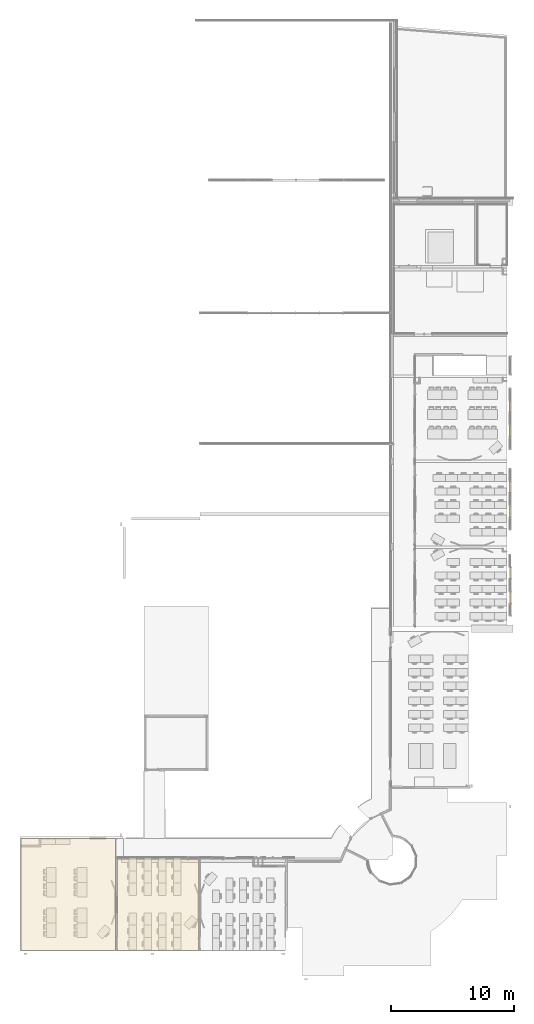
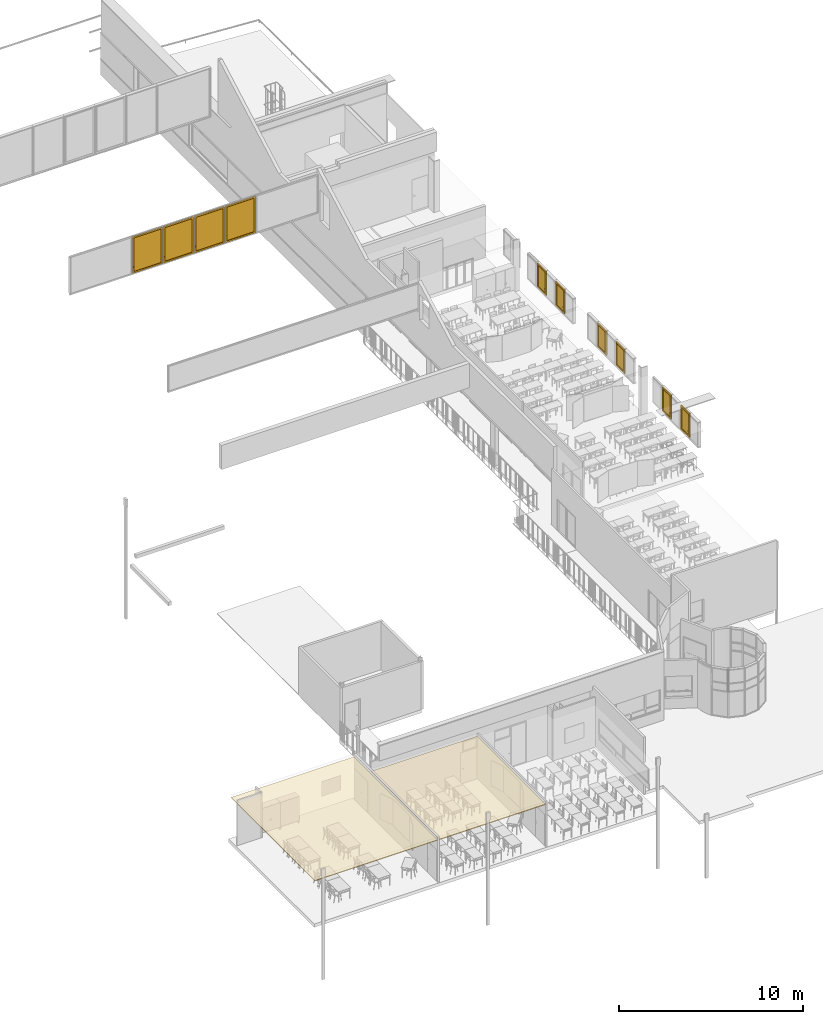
# One storey, part 40 of 44: 20 windows, 2 coverings, 9 elements without a shape of their own.
"""IFC2X3 building model written with IfcOpenShell, lengths in centimetres."""

from ifc_helpers import new_model, entity, si_unit, converted_unit, derived_unit, direction, frame, frame_2d, origin, place, context, subcontext, project, spatial, rectangle, extrude, faceted_brep, source, transform, mapped, material, material_list, layer, layer_set, layer_usage, type_object, type_shapes, element, aggregate, save


model = new_model("IFC2X3")

# Units and contexts
model_context = context("Model", 3, precision=0.001, world=origin(), true_north=direction((6.12303176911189e-17, 1.0)))
body_context = subcontext(model_context, "Body", "Model", "MODEL_VIEW")
ifc_project = project(units=[si_unit("LENGTHUNIT", "METRE", prefix="CENTI"), si_unit("AREAUNIT", "SQUARE_METRE"), si_unit("VOLUMEUNIT", "CUBIC_METRE"), converted_unit("PLANEANGLEUNIT", "DEGREE", entity("IfcRatioMeasure", 0.0174532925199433), si_unit("PLANEANGLEUNIT", "RADIAN"), dimensions=[0, 0, 0, 0, 0, 0, 0]), si_unit("MASSUNIT", "GRAM", prefix="KILO"), si_unit("TIMEUNIT", "SECOND"), si_unit("FREQUENCYUNIT", "HERTZ"), si_unit("THERMODYNAMICTEMPERATUREUNIT", "DEGREE_CELSIUS"), derived_unit("THERMALTRANSMITTANCEUNIT", [(si_unit("MASSUNIT", "GRAM", prefix="KILO"), 1), (si_unit("THERMODYNAMICTEMPERATUREUNIT", "KELVIN"), -1), (si_unit("TIMEUNIT", "SECOND"), -3)]), derived_unit("VOLUMETRICFLOWRATEUNIT", [(si_unit("LENGTHUNIT", "METRE"), 3), (si_unit("TIMEUNIT", "SECOND"), -1)]), si_unit("ELECTRICCURRENTUNIT", "AMPERE"), si_unit("ELECTRICVOLTAGEUNIT", "VOLT"), si_unit("POWERUNIT", "WATT"), si_unit("FORCEUNIT", "NEWTON", prefix="KILO"), si_unit("ILLUMINANCEUNIT", "LUX"), si_unit("LUMINOUSFLUXUNIT", "LUMEN"), si_unit("LUMINOUSINTENSITYUNIT", "CANDELA"), derived_unit("USERDEFINED", [(si_unit("MASSUNIT", "GRAM", prefix="KILO"), -1), (si_unit("LENGTHUNIT", "METRE"), -2), (si_unit("TIMEUNIT", "SECOND"), 3), (si_unit("LUMINOUSFLUXUNIT", "LUMEN"), 1)]), derived_unit("LINEARVELOCITYUNIT", [(si_unit("LENGTHUNIT", "METRE"), 1), (si_unit("TIMEUNIT", "SECOND"), -1)]), si_unit("PRESSUREUNIT", "PASCAL"), derived_unit("USERDEFINED", [(si_unit("LENGTHUNIT", "METRE"), -2), (si_unit("MASSUNIT", "GRAM", prefix="KILO"), 1), (si_unit("TIMEUNIT", "SECOND"), -2)])], contexts=[model_context])

# Site, building, storey
site_placement = place(None, frame((8.62739174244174, -249.285249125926, 0.0)))
site = spatial("IfcSite", under=ifc_project, at=site_placement, Name="Default", CompositionType="ELEMENT")
building_placement = place(site_placement, origin())
building = spatial("IfcBuilding", under=site, at=building_placement, CompositionType="ELEMENT")
storey_placement = place(building_placement, frame((0.0, 0.0, 343.0)))
storey = spatial("IfcBuildingStorey", under=building, at=storey_placement, Name="R+1", CompositionType="ELEMENT", Elevation=343.0)

# Curtain wall, windows
curtain_wall_type = type_object("IfcCurtainWallType", Name="Mur-rideau:Simple panneau", PredefinedType="NOTDEFINED")
curtain_wall_1_placement = place(storey_placement, frame((0.0, 0.0, -343.0)))
curtain_wall_1 = element("IfcCurtainWall", 1, at=curtain_wall_1_placement, inside=storey, type_object=curtain_wall_type, Name="Mur-rideau:Simple panneau", ObjectType="Mur-rideau:Simple panneau")
ifc_material_1 = material(Name="PVC - Blanc")
ifc_material_2 = material(Name="Fenêtre - Vitrage")
ifc_material_list_1 = material_list([ifc_material_1, ifc_material_2])
ifc_material_list_2 = material_list([ifc_material_1, ifc_material_2])
window_style_1 = type_object("IfcWindowStyle", Name="MR 1 OB", ConstructionType="NOTDEFINED", OperationType="NOTDEFINED", ParameterTakesPrecedence=False, Sizeable=False, material=ifc_material_list_2)
shared_shape_1 = source(origin(), body_context, "Body", "Brep", [
    faceted_brep([(-40.5646009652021, 4.92408568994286, 47.2033929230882), (-40.7033929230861, 4.92408568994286, 47.0646009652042), (-40.7033929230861, 4.92408568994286, 45.9332301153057), (-40.5667698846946, 4.92408568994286, 45.7966070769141), (-39.4332301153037, 4.92408568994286, 45.7966070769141), (-39.2966070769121, 4.92408568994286, 45.9332301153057), (-39.2966070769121, 4.92408568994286, 47.0646009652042), (-39.4353990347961, 4.92408568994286, 47.2033929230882), (-40.5646009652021, 6.21544057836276, 47.2033929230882), (-40.7033929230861, 6.15795106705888, 47.0646009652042), (-40.7033929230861, 7.48868665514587, 45.7338653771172), (-40.7033929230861, 7.48868665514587, 37.0), (-40.7033929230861, 6.3573158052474, 37.0), (-40.7033929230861, 6.35731580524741, 45.2652362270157), (-40.7033929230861, 5.68932191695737, 45.9332301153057), (-40.5667698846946, 5.63273080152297, 45.7966070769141), (-39.4332301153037, 5.63273080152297, 45.7966070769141), (-39.2966070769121, 5.68932191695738, 45.9332301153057), (-39.2966070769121, 6.35731580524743, 45.2652362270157), (-39.2966070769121, 6.35731580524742, 37.0), (-39.2966070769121, 7.48868665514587, 37.0), (-39.2966070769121, 7.48868665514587, 45.7338653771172), (-39.2966070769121, 6.15795106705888, 47.0646009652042), (-39.4353990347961, 6.21544057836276, 47.2033929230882), (-40.5646009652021, 7.6274786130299, 45.7913548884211), (-40.5667698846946, 6.22069276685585, 45.2086451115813), (-39.4332301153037, 6.22069276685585, 45.2086451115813), (-39.4353990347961, 7.6274786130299, 45.7913548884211), (-40.5646009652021, 7.6274786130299, 37.0), (-39.4353990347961, 7.6274786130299, 37.0), (-39.4332301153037, 6.22069276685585, 37.0), (-40.5667698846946, 6.22069276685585, 37.0)], [[[0, 1, 2, 3, 4, 5, 6, 7]], [[1, 0, 8, 9]], [[2, 1, 9, 10, 11, 12, 13, 14]], [[3, 2, 14, 15]], [[4, 3, 15, 16]], [[5, 4, 16, 17]], [[6, 5, 17, 18, 19, 20, 21, 22]], [[7, 6, 22, 23]], [[0, 7, 23, 8]], [[9, 8, 24, 10]], [[15, 14, 13, 25]], [[16, 15, 25, 26]], [[17, 16, 26, 18]], [[23, 22, 21, 27]], [[8, 23, 27, 24]], [[28, 29, 20, 19, 30, 31, 12, 11]], [[10, 24, 28, 11]], [[25, 13, 12, 31]], [[26, 25, 31, 30]], [[18, 26, 30, 19]], [[27, 21, 20, 29]], [[24, 27, 29, 28]]]),
    faceted_brep([(-40.7000000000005, 4.32408568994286, 49.0), (-41.1999999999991, 4.32408568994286, 48.500000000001), (-41.1999999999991, 4.32408568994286, 41.4999999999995), (-40.7000000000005, 4.32408568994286, 41.0), (-39.2999999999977, 4.32408568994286, 41.0), (-38.799999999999, 4.32408568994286, 41.4999999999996), (-38.799999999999, 4.32408568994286, 48.500000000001), (-39.299999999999, 4.32408568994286, 49.0), (-40.7000000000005, 4.92408568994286, 49.0), (-39.299999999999, 4.92408568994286, 49.0), (-38.799999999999, 4.92408568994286, 48.500000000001), (-38.799999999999, 4.92408568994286, 41.4999999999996), (-39.2999999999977, 4.92408568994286, 41.0), (-40.7000000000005, 4.92408568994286, 41.0), (-41.1999999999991, 4.92408568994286, 41.4999999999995), (-41.1999999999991, 4.92408568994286, 48.500000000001)], [[[0, 1, 2, 3, 4, 5, 6, 7]], [[8, 9, 10, 11, 12, 13, 14, 15]], [[1, 0, 8, 15]], [[2, 1, 15, 14]], [[3, 2, 14, 13]], [[4, 3, 13, 12]], [[5, 4, 12, 11]], [[6, 5, 11, 10]], [[7, 6, 10, 9]], [[0, 7, 9, 8]]]),
    faceted_brep([(37.4999999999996, 1.92408568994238, 150.0), (37.4999999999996, 1.92408568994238, 10.0), (-37.4999999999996, 1.92408568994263, 10.0), (-37.4999999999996, 1.92408568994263, 150.0), (37.4999999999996, 0.724085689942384, 150.0), (-37.4999999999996, 0.724085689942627, 150.0), (-37.4999999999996, 0.724085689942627, 10.0), (37.4999999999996, 0.724085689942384, 10.0)], [[[0, 1, 2, 3]], [[4, 5, 6, 7]], [[3, 5, 4, 0]], [[2, 6, 5, 3]], [[1, 7, 6, 2]], [[0, 4, 7, 1]]]),
    faceted_brep([(-42.4999999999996, -1.67591431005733, 155.0), (42.4999999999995, -1.67591431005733, 155.0), (42.4999999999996, 4.3240856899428, 155.0), (-42.4999999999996, 4.3240856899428, 155.0), (-37.4999999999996, 4.3240856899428, 150.0), (37.4999999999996, 4.3240856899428, 150.0), (37.4999999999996, -1.67591431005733, 150.0), (-37.4999999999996, -1.67591431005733, 150.0), (42.4999999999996, -1.67591431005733, 5.0), (42.4999999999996, 4.3240856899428, 5.0), (37.4999999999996, 4.3240856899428, 10.0), (37.4999999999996, -1.67591431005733, 10.0), (-42.4999999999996, -1.67591431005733, 5.0), (-42.4999999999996, 4.3240856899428, 5.0), (-37.4999999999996, 4.3240856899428, 10.0), (-37.4999999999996, -1.67591431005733, 10.0)], [[[0, 1, 2, 3]], [[4, 5, 6, 7]], [[1, 8, 9, 2]], [[5, 10, 11, 6]], [[8, 12, 13, 9]], [[10, 14, 15, 11]], [[3, 2, 9, 13], [5, 4, 14, 10]], [[12, 0, 3, 13]], [[1, 0, 12, 8], [7, 6, 11, 15]], [[14, 4, 7, 15]]]),
    faceted_brep([(-41.4999999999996, -1.6759143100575, 154.0), (41.4999999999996, -1.6759143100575, 154.0), (41.4999999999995, -2.67591431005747, 154.0), (-41.4999999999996, -2.67591431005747, 154.0), (-42.4999999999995, 4.32408568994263, 155.0), (42.4999999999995, 4.32408568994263, 155.0), (42.4999999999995, -1.6759143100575, 155.0), (-42.4999999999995, -1.6759143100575, 155.0), (-47.4999999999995, -2.67591431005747, 160.0), (47.4999999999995, -2.67591431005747, 160.0), (47.4999999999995, 4.32408568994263, 160.0), (-47.4999999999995, 4.32408568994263, 160.0), (41.4999999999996, -1.6759143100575, 6.0), (41.4999999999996, -2.67591431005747, 6.0), (42.4999999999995, 4.32408568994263, 5.0), (42.4999999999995, -1.6759143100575, 5.0), (47.4999999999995, -2.67591431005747, 0.0), (47.4999999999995, 4.32408568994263, 0.0), (-41.4999999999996, -1.6759143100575, 6.0), (-41.4999999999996, -2.67591431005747, 6.0), (-42.4999999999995, 4.32408568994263, 5.0), (-42.4999999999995, -1.6759143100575, 5.0), (-47.4999999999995, -2.67591431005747, 0.0), (-47.4999999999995, 4.32408568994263, 0.0)], [[[0, 1, 2, 3]], [[4, 5, 6, 7]], [[8, 9, 10, 11]], [[1, 12, 13, 2]], [[5, 14, 15, 6]], [[9, 16, 17, 10]], [[12, 18, 19, 13]], [[14, 20, 21, 15]], [[16, 22, 23, 17]], [[3, 2, 13, 19], [9, 8, 22, 16]], [[18, 0, 3, 19]], [[1, 0, 18, 12], [7, 6, 15, 21]], [[20, 4, 7, 21]], [[5, 4, 20, 14], [11, 10, 17, 23]], [[22, 8, 11, 23]]], outer=[[True], [True], [True], [True], [True], [True], [True], [True], [True], [False, True], [True], [False, True], [True], [False, True], [True]]),
])
type_shapes(window_style_1, [shared_shape_1])
window_1_placement = place(curtain_wall_1_placement, frame((4001.90482776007, 4446.58270074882, 456.0), z_axis=(0.0, 0.0, 1.0), x_axis=(0.0, 1.0, 0.0)))
window_1 = element("IfcWindow", 2, at=window_1_placement, type_object=window_style_1, material=ifc_material_list_1, Name="MR 1 OB:MR 1 OB", ObjectType="MR 1 OB", OverallHeight=160.0, OverallWidth=101.0, context=body_context, shape_type="MappedRepresentation", body=[
    mapped(shared_shape_1, transform((0.0, 0.0, 0.0), scale=1.0)),
])
ifc_material_list_3 = material_list([ifc_material_1, ifc_material_2])
window_2_placement = place(curtain_wall_1_placement, frame((4001.90482776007, 4246.58270074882, 456.0), z_axis=(0.0, 0.0, 1.0), x_axis=(0.0, 1.0, 0.0)))
window_2 = element("IfcWindow", 3, at=window_2_placement, type_object=window_style_1, material=ifc_material_list_3, Name="MR 1 OB:MR 1 OB", ObjectType="MR 1 OB", OverallHeight=160.0, OverallWidth=101.0, context=body_context, shape_type="MappedRepresentation", body=[
    mapped(shared_shape_1, transform((0.0, 0.0, 0.0), scale=1.0)),
])
aggregate(curtain_wall_1, [window_1, window_2])

curtain_wall_2_placement = place(storey_placement, frame((0.0, 0.0, -343.0)))
curtain_wall_2 = element("IfcCurtainWall", 4, at=curtain_wall_2_placement, inside=storey, type_object=curtain_wall_type, Name="Mur-rideau:Simple panneau", ObjectType="Mur-rideau:Simple panneau")
ifc_material_list_4 = material_list([ifc_material_1, ifc_material_2])
window_3_placement = place(curtain_wall_2_placement, frame((4003.90482781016, 3091.68519336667, 456.0), z_axis=(0.0, 0.0, 1.0), x_axis=(0.0, 1.0, 0.0)))
window_3 = element("IfcWindow", 5, at=window_3_placement, type_object=window_style_1, material=ifc_material_list_4, Name="MR 1 OB:MR 1 OB", ObjectType="MR 1 OB", OverallHeight=160.0, OverallWidth=101.0, context=body_context, shape_type="MappedRepresentation", body=[
    mapped(shared_shape_1, transform((0.0, 0.0, 0.0), scale=1.0)),
])
ifc_material_list_5 = material_list([ifc_material_1, ifc_material_2])
window_4_placement = place(curtain_wall_2_placement, frame((4003.90482781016, 2891.68519336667, 456.0), z_axis=(0.0, 0.0, 1.0), x_axis=(0.0, 1.0, 0.0)))
window_4 = element("IfcWindow", 6, at=window_4_placement, type_object=window_style_1, material=ifc_material_list_5, Name="MR 1 OB:MR 1 OB", ObjectType="MR 1 OB", OverallHeight=160.0, OverallWidth=101.0, context=body_context, shape_type="MappedRepresentation", body=[
    mapped(shared_shape_1, transform((0.0, 0.0, 0.0), scale=1.0)),
])
aggregate(curtain_wall_2, [window_3, window_4])

curtain_wall_3_placement = place(storey_placement, frame((0.0, 0.0, -343.0)))
curtain_wall_3 = element("IfcCurtainWall", 7, at=curtain_wall_3_placement, inside=storey, type_object=curtain_wall_type, Name="Mur-rideau:Simple panneau", ObjectType="Mur-rideau:Simple panneau")
ifc_material_list_6 = material_list([ifc_material_1, ifc_material_2])
window_5_placement = place(curtain_wall_3_placement, frame((4001.90482776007, 4446.58270074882, 456.0), z_axis=(0.0, 0.0, 1.0), x_axis=(0.0, 1.0, 0.0)))
window_5 = element("IfcWindow", 8, at=window_5_placement, type_object=window_style_1, material=ifc_material_list_6, Name="MR 1 OB:MR 1 OB", ObjectType="MR 1 OB", OverallHeight=160.0, OverallWidth=101.0, context=body_context, shape_type="MappedRepresentation", body=[
    mapped(shared_shape_1, transform((0.0, 0.0, 0.0), scale=1.0)),
])
ifc_material_list_7 = material_list([ifc_material_1, ifc_material_2])
window_6_placement = place(curtain_wall_3_placement, frame((4001.90482776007, 4246.58270074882, 456.0), z_axis=(0.0, 0.0, 1.0), x_axis=(0.0, 1.0, 0.0)))
window_6 = element("IfcWindow", 9, at=window_6_placement, type_object=window_style_1, material=ifc_material_list_7, Name="MR 1 OB:MR 1 OB", ObjectType="MR 1 OB", OverallHeight=160.0, OverallWidth=101.0, context=body_context, shape_type="MappedRepresentation", body=[
    mapped(shared_shape_1, transform((0.0, 0.0, 0.0), scale=1.0)),
])
aggregate(curtain_wall_3, [window_5, window_6])

curtain_wall_4_placement = place(storey_placement, frame((0.0, 0.0, -343.0)))
curtain_wall_4 = element("IfcCurtainWall", 10, at=curtain_wall_4_placement, inside=storey, type_object=curtain_wall_type, Name="Mur-rideau:Simple panneau", ObjectType="Mur-rideau:Simple panneau")
ifc_material_list_8 = material_list([ifc_material_1, ifc_material_2])
window_7_placement = place(curtain_wall_4_placement, frame((4001.90482776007, 3791.68519336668, 456.0), z_axis=(0.0, 0.0, 1.0), x_axis=(0.0, 1.0, 0.0)))
window_7 = element("IfcWindow", 11, at=window_7_placement, type_object=window_style_1, material=ifc_material_list_8, Name="MR 1 OB:MR 1 OB", ObjectType="MR 1 OB", OverallHeight=160.0, OverallWidth=101.0, context=body_context, shape_type="MappedRepresentation", body=[
    mapped(shared_shape_1, transform((0.0, 0.0, 0.0), scale=1.0)),
])
ifc_material_list_9 = material_list([ifc_material_1, ifc_material_2])
window_8_placement = place(curtain_wall_4_placement, frame((4001.90482776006, 3591.68519336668, 456.0), z_axis=(0.0, 0.0, 1.0), x_axis=(0.0, 1.0, 0.0)))
window_8 = element("IfcWindow", 12, at=window_8_placement, type_object=window_style_1, material=ifc_material_list_9, Name="MR 1 OB:MR 1 OB", ObjectType="MR 1 OB", OverallHeight=160.0, OverallWidth=101.0, context=body_context, shape_type="MappedRepresentation", body=[
    mapped(shared_shape_1, transform((0.0, 0.0, 0.0), scale=1.0)),
])
aggregate(curtain_wall_4, [window_7, window_8])

curtain_wall_5_placement = place(storey_placement, frame((0.0, 0.0, -343.0)))
curtain_wall_5 = element("IfcCurtainWall", 13, at=curtain_wall_5_placement, inside=storey, type_object=curtain_wall_type, Name="Mur-rideau:Simple panneau", ObjectType="Mur-rideau:Simple panneau")
ifc_material_list_10 = material_list([ifc_material_1, ifc_material_2])
window_9_placement = place(curtain_wall_5_placement, frame((4003.90482781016, 3091.68519336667, 456.0), z_axis=(0.0, 0.0, 1.0), x_axis=(0.0, 1.0, 0.0)))
window_9 = element("IfcWindow", 14, at=window_9_placement, type_object=window_style_1, material=ifc_material_list_10, Name="MR 1 OB:MR 1 OB", ObjectType="MR 1 OB", OverallHeight=160.0, OverallWidth=101.0, context=body_context, shape_type="MappedRepresentation", body=[
    mapped(shared_shape_1, transform((0.0, 0.0, 0.0), scale=1.0)),
])
ifc_material_list_11 = material_list([ifc_material_1, ifc_material_2])
window_10_placement = place(curtain_wall_5_placement, frame((4003.90482781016, 2891.68519336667, 456.0), z_axis=(0.0, 0.0, 1.0), x_axis=(0.0, 1.0, 0.0)))
window_10 = element("IfcWindow", 15, at=window_10_placement, type_object=window_style_1, material=ifc_material_list_11, Name="MR 1 OB:MR 1 OB", ObjectType="MR 1 OB", OverallHeight=160.0, OverallWidth=101.0, context=body_context, shape_type="MappedRepresentation", body=[
    mapped(shared_shape_1, transform((0.0, 0.0, 0.0), scale=1.0)),
])
aggregate(curtain_wall_5, [window_9, window_10])

curtain_wall_6_placement = place(storey_placement, frame((0.0, 0.0, -343.0)))
curtain_wall_6 = element("IfcCurtainWall", 16, at=curtain_wall_6_placement, inside=storey, type_object=curtain_wall_type, Name="Mur-rideau:Simple panneau", ObjectType="Mur-rideau:Simple panneau")
ifc_material_list_12 = material_list([ifc_material_1, ifc_material_2])
window_11_placement = place(curtain_wall_6_placement, frame((4001.90482776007, 4446.58270074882, 456.0), z_axis=(0.0, 0.0, 1.0), x_axis=(0.0, 1.0, 0.0)))
window_11 = element("IfcWindow", 17, at=window_11_placement, type_object=window_style_1, material=ifc_material_list_12, Name="MR 1 OB:MR 1 OB", ObjectType="MR 1 OB", OverallHeight=160.0, OverallWidth=101.0, context=body_context, shape_type="MappedRepresentation", body=[
    mapped(shared_shape_1, transform((0.0, 0.0, 0.0), scale=1.0)),
])
ifc_material_list_13 = material_list([ifc_material_1, ifc_material_2])
window_12_placement = place(curtain_wall_6_placement, frame((4001.90482776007, 4246.58270074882, 456.0), z_axis=(0.0, 0.0, 1.0), x_axis=(0.0, 1.0, 0.0)))
window_12 = element("IfcWindow", 18, at=window_12_placement, type_object=window_style_1, material=ifc_material_list_13, Name="MR 1 OB:MR 1 OB", ObjectType="MR 1 OB", OverallHeight=160.0, OverallWidth=101.0, context=body_context, shape_type="MappedRepresentation", body=[
    mapped(shared_shape_1, transform((0.0, 0.0, 0.0), scale=1.0)),
])
aggregate(curtain_wall_6, [window_11, window_12])

curtain_wall_7_placement = place(storey_placement, frame((0.0, 0.0, -343.0)))
curtain_wall_7 = element("IfcCurtainWall", 19, at=curtain_wall_7_placement, inside=storey, type_object=curtain_wall_type, Name="Mur-rideau:Simple panneau", ObjectType="Mur-rideau:Simple panneau")
ifc_material_list_14 = material_list([ifc_material_1, ifc_material_2])
window_13_placement = place(curtain_wall_7_placement, frame((4001.90482776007, 3791.68519336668, 456.0), z_axis=(0.0, 0.0, 1.0), x_axis=(0.0, 1.0, 0.0)))
window_13 = element("IfcWindow", 20, at=window_13_placement, type_object=window_style_1, material=ifc_material_list_14, Name="MR 1 OB:MR 1 OB", ObjectType="MR 1 OB", OverallHeight=160.0, OverallWidth=101.0, context=body_context, shape_type="MappedRepresentation", body=[
    mapped(shared_shape_1, transform((0.0, 0.0, 0.0), scale=1.0)),
])
ifc_material_list_15 = material_list([ifc_material_1, ifc_material_2])
window_14_placement = place(curtain_wall_7_placement, frame((4001.90482776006, 3591.68519336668, 456.0), z_axis=(0.0, 0.0, 1.0), x_axis=(0.0, 1.0, 0.0)))
window_14 = element("IfcWindow", 21, at=window_14_placement, type_object=window_style_1, material=ifc_material_list_15, Name="MR 1 OB:MR 1 OB", ObjectType="MR 1 OB", OverallHeight=160.0, OverallWidth=101.0, context=body_context, shape_type="MappedRepresentation", body=[
    mapped(shared_shape_1, transform((0.0, 0.0, 0.0), scale=1.0)),
])
aggregate(curtain_wall_7, [window_13, window_14])

curtain_wall_8_placement = place(storey_placement, frame((0.0, 0.0, -343.0)))
curtain_wall_8 = element("IfcCurtainWall", 22, at=curtain_wall_8_placement, inside=storey, type_object=curtain_wall_type, Name="Mur-rideau:Simple panneau", ObjectType="Mur-rideau:Simple panneau")
ifc_material_list_16 = material_list([ifc_material_1, ifc_material_2])
window_15_placement = place(curtain_wall_8_placement, frame((4003.90482781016, 3091.68519336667, 456.0), z_axis=(0.0, 0.0, 1.0), x_axis=(0.0, 1.0, 0.0)))
window_15 = element("IfcWindow", 23, at=window_15_placement, type_object=window_style_1, material=ifc_material_list_16, Name="MR 1 OB:MR 1 OB", ObjectType="MR 1 OB", OverallHeight=160.0, OverallWidth=101.0, context=body_context, shape_type="MappedRepresentation", body=[
    mapped(shared_shape_1, transform((0.0, 0.0, 0.0), scale=1.0)),
])
ifc_material_list_17 = material_list([ifc_material_1, ifc_material_2])
window_16_placement = place(curtain_wall_8_placement, frame((4003.90482781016, 2891.68519336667, 456.0), z_axis=(0.0, 0.0, 1.0), x_axis=(0.0, 1.0, 0.0)))
window_16 = element("IfcWindow", 24, at=window_16_placement, type_object=window_style_1, material=ifc_material_list_17, Name="MR 1 OB:MR 1 OB", ObjectType="MR 1 OB", OverallHeight=160.0, OverallWidth=101.0, context=body_context, shape_type="MappedRepresentation", body=[
    mapped(shared_shape_1, transform((0.0, 0.0, 0.0), scale=1.0)),
])
aggregate(curtain_wall_8, [window_15, window_16])

curtain_wall_9_placement = place(storey_placement, frame((0.0, 0.0, -343.0)))
curtain_wall_9 = element("IfcCurtainWall", 25, at=curtain_wall_9_placement, inside=storey, type_object=curtain_wall_type, Name="Mur-rideau:Simple panneau", ObjectType="Mur-rideau:Simple panneau")
ifc_material_list_18 = material_list([ifc_material_1, ifc_material_2])
ifc_material_list_19 = material_list([ifc_material_1, ifc_material_2])
window_style_2 = type_object("IfcWindowStyle", Name="MR 1 OB", ConstructionType="NOTDEFINED", OperationType="NOTDEFINED", ParameterTakesPrecedence=False, Sizeable=False, material=ifc_material_list_19)
shared_shape_2 = source(origin(), body_context, "Body", "Brep", [
    faceted_brep([(-87.877100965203, -4.92408568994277, 47.2033929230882), (-86.747899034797, -4.92408568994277, 47.2033929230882), (-86.609107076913, -4.92408568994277, 47.0646009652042), (-86.609107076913, -4.92408568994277, 45.9332301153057), (-86.7457301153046, -4.92408568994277, 45.7966070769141), (-87.8792698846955, -4.92408568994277, 45.7966070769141), (-88.0158929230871, -4.92408568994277, 45.9332301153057), (-88.0158929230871, -4.92408568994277, 47.0646009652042), (-88.0158929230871, -6.1579510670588, 47.0646009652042), (-87.877100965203, -6.21544057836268, 47.2033929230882), (-88.0158929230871, -5.68932191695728, 45.9332301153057), (-88.0158929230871, -6.35731580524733, 45.2652362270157), (-88.0158929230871, -6.35731580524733, 37.0), (-88.0158929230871, -7.48868665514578, 37.0), (-88.0158929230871, -7.48868665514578, 45.7338653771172), (-87.8792698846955, -5.63273080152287, 45.7966070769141), (-86.7457301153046, -5.63273080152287, 45.7966070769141), (-86.609107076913, -5.68932191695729, 45.9332301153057), (-86.609107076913, -6.1579510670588, 47.0646009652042), (-86.609107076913, -7.48868665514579, 45.7338653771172), (-86.609107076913, -7.48868665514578, 37.0), (-86.609107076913, -6.35731580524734, 37.0), (-86.609107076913, -6.35731580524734, 45.2652362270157), (-86.747899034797, -6.21544057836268, 47.2033929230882), (-87.8771009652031, -7.62747861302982, 45.7913548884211), (-87.8792698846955, -6.22069276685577, 45.2086451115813), (-86.7457301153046, -6.22069276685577, 45.2086451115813), (-86.747899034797, -7.62747861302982, 45.7913548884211), (-87.877100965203, -7.62747861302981, 37.0), (-87.8792698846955, -6.22069276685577, 37.0), (-86.7457301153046, -6.22069276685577, 37.0), (-86.747899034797, -7.62747861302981, 37.0)], [[[0, 1, 2, 3, 4, 5, 6, 7]], [[7, 8, 9, 0]], [[6, 10, 11, 12, 13, 14, 8, 7]], [[5, 15, 10, 6]], [[4, 16, 15, 5]], [[3, 17, 16, 4]], [[2, 18, 19, 20, 21, 22, 17, 3]], [[1, 23, 18, 2]], [[0, 9, 23, 1]], [[8, 14, 24, 9]], [[15, 25, 11, 10]], [[16, 26, 25, 15]], [[17, 22, 26, 16]], [[23, 27, 19, 18]], [[9, 24, 27, 23]], [[28, 13, 12, 29, 30, 21, 20, 31]], [[14, 13, 28, 24]], [[25, 29, 12, 11]], [[26, 30, 29, 25]], [[22, 21, 30, 26]], [[27, 31, 20, 19]], [[24, 28, 31, 27]]]),
    faceted_brep([(-88.0125000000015, -4.32408568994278, 49.0), (-86.6124999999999, -4.32408568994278, 49.0), (-86.1124999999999, -4.32408568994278, 48.500000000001), (-86.1124999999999, -4.32408568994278, 41.4999999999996), (-86.6124999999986, -4.32408568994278, 41.0), (-88.0125000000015, -4.32408568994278, 41.0), (-88.5125, -4.32408568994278, 41.4999999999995), (-88.5125, -4.32408568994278, 48.500000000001), (-88.0125000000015, -4.92408568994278, 49.0), (-88.5125, -4.92408568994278, 48.500000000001), (-88.5125, -4.92408568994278, 41.4999999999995), (-88.0125000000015, -4.92408568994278, 41.0), (-86.6124999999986, -4.92408568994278, 41.0), (-86.1124999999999, -4.92408568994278, 41.4999999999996), (-86.1124999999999, -4.92408568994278, 48.500000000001), (-86.6124999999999, -4.92408568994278, 49.0)], [[[0, 1, 2, 3, 4, 5, 6, 7]], [[8, 9, 10, 11, 12, 13, 14, 15]], [[7, 9, 8, 0]], [[6, 10, 9, 7]], [[5, 11, 10, 6]], [[4, 12, 11, 5]], [[3, 13, 12, 4]], [[2, 14, 13, 3]], [[1, 15, 14, 2]], [[0, 8, 15, 1]]]),
    faceted_brep([(84.8125000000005, -1.92408568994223, 233.0), (-84.8125000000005, -1.92408568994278, 233.0), (-84.8125000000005, -1.92408568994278, 10.0), (84.8125000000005, -1.92408568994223, 10.0), (84.8125000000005, -0.724085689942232, 233.0), (84.8125000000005, -0.724085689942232, 10.0), (-84.8125000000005, -0.724085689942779, 10.0), (-84.8125000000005, -0.724085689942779, 233.0)], [[[0, 1, 2, 3]], [[4, 5, 6, 7]], [[1, 0, 4, 7]], [[2, 1, 7, 6]], [[3, 2, 6, 5]], [[0, 3, 5, 4]]]),
    faceted_brep([(-89.8125000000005, 1.67591431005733, 238.0), (-89.8125000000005, -4.3240856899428, 238.0), (89.8125000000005, -4.3240856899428, 238.0), (89.8125000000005, 1.67591431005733, 238.0), (-84.8125000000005, -4.3240856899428, 233.0), (-84.8125000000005, 1.67591431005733, 233.0), (84.8125000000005, 1.67591431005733, 233.0), (84.8125000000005, -4.3240856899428, 233.0), (89.8125000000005, -4.3240856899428, 5.0), (89.8125000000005, 1.67591431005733, 5.0), (84.8125000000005, 1.67591431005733, 10.0), (84.8125000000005, -4.3240856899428, 10.0), (-89.8125000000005, -4.3240856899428, 5.0), (-89.8125000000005, 1.67591431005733, 5.0), (-84.8125000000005, 1.67591431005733, 10.0), (-84.8125000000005, -4.3240856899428, 10.0)], [[[0, 1, 2, 3]], [[4, 5, 6, 7]], [[3, 2, 8, 9]], [[7, 6, 10, 11]], [[9, 8, 12, 13]], [[11, 10, 14, 15]], [[7, 11, 15, 4], [1, 12, 8, 2]], [[13, 12, 1, 0]], [[3, 9, 13, 0], [5, 14, 10, 6]], [[15, 14, 5, 4]]], outer=[[True], [True], [True], [True], [True], [True], [False, True], [True], [True, False], [True]]),
    faceted_brep([(-88.8125000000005, 1.6759143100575, 237.0), (-88.8125000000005, 2.67591431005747, 237.0), (88.8125000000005, 2.67591431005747, 237.0), (88.8125000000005, 1.6759143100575, 237.0), (-89.8125000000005, -4.32408568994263, 238.0), (-89.8125000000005, 1.6759143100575, 238.0), (89.8125000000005, 1.6759143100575, 238.0), (89.8125000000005, -4.32408568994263, 238.0), (-94.8125000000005, 2.67591431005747, 243.0), (-94.8125000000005, -4.32408568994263, 243.0), (94.8125000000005, -4.32408568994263, 243.0), (94.8125000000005, 2.67591431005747, 243.0), (88.8125000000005, 2.67591431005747, 6.0), (88.8125000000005, 1.6759143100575, 6.0), (89.8125000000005, 1.6759143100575, 5.0), (89.8125000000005, -4.32408568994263, 5.0), (94.8125000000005, -4.32408568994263, 0.0), (94.8125000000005, 2.67591431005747, 0.0), (-88.8125000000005, 2.67591431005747, 6.0), (-88.8125000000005, 1.6759143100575, 6.0), (-89.8125000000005, 1.6759143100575, 5.0), (-89.8125000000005, -4.32408568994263, 5.0), (-94.8125000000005, -4.32408568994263, 0.0), (-94.8125000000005, 2.67591431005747, 0.0)], [[[0, 1, 2, 3]], [[4, 5, 6, 7]], [[8, 9, 10, 11]], [[3, 2, 12, 13]], [[7, 6, 14, 15]], [[11, 10, 16, 17]], [[13, 12, 18, 19]], [[15, 14, 20, 21]], [[17, 16, 22, 23]], [[11, 17, 23, 8], [1, 18, 12, 2]], [[19, 18, 1, 0]], [[3, 13, 19, 0], [5, 20, 14, 6]], [[21, 20, 5, 4]], [[7, 15, 21, 4], [9, 22, 16, 10]], [[23, 22, 9, 8]]], outer=[[True], [True], [True], [True], [True], [True], [True], [True], [True], [True, False], [True], [False, True], [True], [False, True], [True]]),
])
type_shapes(window_style_2, [shared_shape_2])
window_17_placement = place(curtain_wall_9_placement, frame((1963.46732779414, 5206.78358687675, 860.0)))
window_17 = element("IfcWindow", 26, at=window_17_placement, type_object=window_style_2, material=ifc_material_list_18, Name="MR 1 OB:MR 1 OB", ObjectType="MR 1 OB", OverallHeight=243.0, OverallWidth=189.625000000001, context=body_context, shape_type="MappedRepresentation", body=[
    mapped(shared_shape_2, transform((0.0, 0.0, 0.0), scale=1.0)),
])
ifc_material_list_20 = material_list([ifc_material_1, ifc_material_2])
window_18_placement = place(curtain_wall_9_placement, frame((2158.09232779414, 5206.78358687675, 860.0)))
window_18 = element("IfcWindow", 27, at=window_18_placement, type_object=window_style_2, material=ifc_material_list_20, Name="MR 1 OB:MR 1 OB", ObjectType="MR 1 OB", OverallHeight=243.0, OverallWidth=189.625000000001, context=body_context, shape_type="MappedRepresentation", body=[
    mapped(shared_shape_2, transform((0.0, 0.0, 0.0), scale=1.0)),
])
ifc_material_list_21 = material_list([ifc_material_1, ifc_material_2])
window_19_placement = place(curtain_wall_9_placement, frame((2352.71732779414, 5206.78358687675, 860.0)))
window_19 = element("IfcWindow", 28, at=window_19_placement, type_object=window_style_2, material=ifc_material_list_21, Name="MR 1 OB:MR 1 OB", ObjectType="MR 1 OB", OverallHeight=243.0, OverallWidth=189.625000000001, context=body_context, shape_type="MappedRepresentation", body=[
    mapped(shared_shape_2, transform((0.0, 0.0, 0.0), scale=1.0)),
])
ifc_material_list_22 = material_list([ifc_material_1, ifc_material_2])
window_20_placement = place(curtain_wall_9_placement, frame((2547.34232779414, 5206.78358687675, 860.0)))
window_20 = element("IfcWindow", 29, at=window_20_placement, type_object=window_style_2, material=ifc_material_list_22, Name="MR 1 OB:MR 1 OB", ObjectType="MR 1 OB", OverallHeight=243.0, OverallWidth=189.625000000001, context=body_context, shape_type="MappedRepresentation", body=[
    mapped(shared_shape_2, transform((0.0, 0.0, 0.0), scale=1.0)),
])
aggregate(curtain_wall_9, [window_17, window_18, window_19, window_20])

# Space
space_1_placement = place(storey_placement, origin())
space_1 = spatial("IfcSpace", under=storey, at=space_1_placement, Name="120", CompositionType="ELEMENT", InteriorOrExteriorSpace="INTERNAL")

# Covering
ifc_material_3 = material(Name="Maçonnerie - Isolant_MU")
ifc_layer = layer(ifc_material_3, 5.0)
ifc_layer_set = layer_set([ifc_layer], Name="Plafond composé:Plafond avec isolation")
ifc_layer_usage_1 = layer_usage(ifc_layer_set, "AXIS3", "NEGATIVE", 0.0)
covering_1_placement = place(space_1_placement, origin())
element("IfcCovering", 30, at=covering_1_placement, inside=space_1, material=ifc_layer_usage_1, Name="Plafond composé:Plafond avec isolation", ObjectType="Plafond composé:Plafond avec isolation", PredefinedType="CEILING", context=body_context, shape_type="SweptSolid", body=[
    extrude(rectangle(XDim=743.0, YDim=665.0, at=frame_2d((0.0, -5.6843418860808e-14), x_axis=(1.0, 0.0))), frame((1136.40547197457, 393.499999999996, 277.0), z_axis=(0.0, 0.0, 1.0), x_axis=(0.0, 1.0, 0.0)), (0.0, 0.0, 1.0), 4.99999999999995),
])

# Space
space_2_placement = place(storey_placement, origin())
space_2 = spatial("IfcSpace", under=storey, at=space_2_placement, Name="117", CompositionType="ELEMENT", InteriorOrExteriorSpace="INTERNAL")

# Covering
ifc_layer_usage_2 = layer_usage(ifc_layer_set, "AXIS3", "NEGATIVE", 0.0)
covering_2_placement = place(space_2_placement, origin())
element("IfcCovering", 31, at=covering_2_placement, inside=space_2, material=ifc_layer_usage_2, Name="Plafond composé:Plafond avec isolation", ObjectType="Plafond composé:Plafond avec isolation", PredefinedType="CEILING", context=body_context, shape_type="SweptSolid", body=[
    extrude(rectangle(XDim=909.0, YDim=769.905471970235, at=frame_2d((0.0, 5.6843418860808e-14), x_axis=(1.0, 0.0))), frame((406.952735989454, 476.499999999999, 277.0), z_axis=(0.0, 0.0, 1.0), x_axis=(0.0, 1.0, 0.0)), (0.0, 0.0, 1.0), 4.99999999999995),
])

save(model, "model.ifc")
